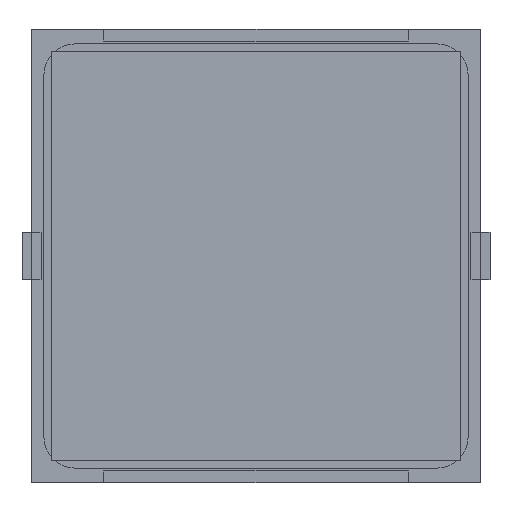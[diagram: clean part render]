
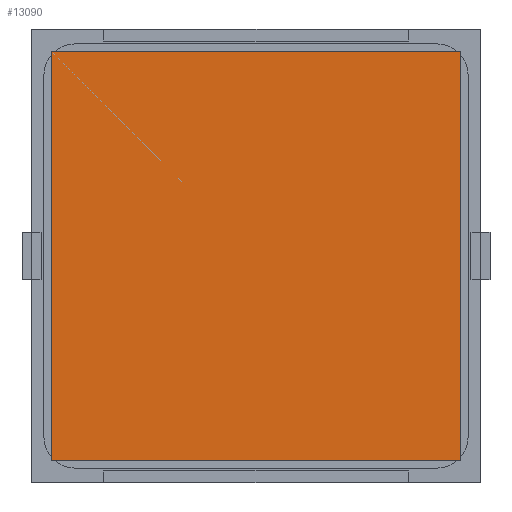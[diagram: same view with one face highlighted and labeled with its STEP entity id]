
A CAD part, front view. The second image highlights one B-rep face of the part: STEP entity #13090.
In plain terms, the highlighted planar face has unit normal (0, -1, 0).
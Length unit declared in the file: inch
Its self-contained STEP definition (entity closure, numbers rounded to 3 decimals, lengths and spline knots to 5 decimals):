
#306 = VERTEX_POINT ( 'NONE', #892 ) ;
#437 = CARTESIAN_POINT ( 'NONE',  ( -0.84646, -0.005, 0.84646 ) ) ;
#505 = CARTESIAN_POINT ( 'NONE',  ( -0.84646, -0.005, 0.84646 ) ) ;
#892 = CARTESIAN_POINT ( 'NONE',  ( -0.84646, -0.005, -0.84646 ) ) ;
#1554 = VECTOR ( 'NONE', #7547, 39.37008 ) ;
#1818 = DIRECTION ( 'NONE',  ( 0., 0., -1. ) ) ;
#2664 = FACE_OUTER_BOUND ( 'NONE', #7488, .T. ) ;
#2734 = PLANE ( 'NONE',  #11641 ) ;
#3004 = EDGE_CURVE ( 'NONE', #12022, #306, #4227, .T. ) ;
#3378 = EDGE_CURVE ( 'NONE', #7980, #10331, #7484, .T. ) ;
#3440 = ORIENTED_EDGE ( 'NONE', *, *, #3378, .F. ) ;
#4165 = CARTESIAN_POINT ( 'NONE',  ( 0.84646, -0.005, -0.84646 ) ) ;
#4227 = LINE ( 'NONE', #11370, #12023 ) ;
#4752 = DIRECTION ( 'NONE',  ( 0., 0., 1. ) ) ;
#5049 = ORIENTED_EDGE ( 'NONE', *, *, #8688, .F. ) ;
#6336 = DIRECTION ( 'NONE',  ( -1., 0., 0. ) ) ;
#6910 = ORIENTED_EDGE ( 'NONE', *, *, #3004, .F. ) ;
#6915 = EDGE_CURVE ( 'NONE', #306, #7980, #10886, .T. ) ;
#7484 = LINE ( 'NONE', #505, #1554 ) ;
#7488 = EDGE_LOOP ( 'NONE', ( #9299, #6910, #5049, #3440 ) ) ;
#7547 = DIRECTION ( 'NONE',  ( 1., 0., 0. ) ) ;
#7980 = VERTEX_POINT ( 'NONE', #437 ) ;
#8688 = EDGE_CURVE ( 'NONE', #10331, #12022, #9805, .T. ) ;
#8871 = VECTOR ( 'NONE', #12895, 39.37008 ) ;
#9299 = ORIENTED_EDGE ( 'NONE', *, *, #6915, .F. ) ;
#9667 = CARTESIAN_POINT ( 'NONE',  ( -0.84646, -0.005, -0.84646 ) ) ;
#9805 = LINE ( 'NONE', #12033, #12682 ) ;
#9959 = CARTESIAN_POINT ( 'NONE',  ( 0.84646, -0.005, 0.84646 ) ) ;
#10331 = VERTEX_POINT ( 'NONE', #9959 ) ;
#10886 = LINE ( 'NONE', #9667, #8871 ) ;
#11017 = DIRECTION ( 'NONE',  ( 0., 1., 0. ) ) ;
#11370 = CARTESIAN_POINT ( 'NONE',  ( -0.84646, -0.005, -0.84646 ) ) ;
#11641 = AXIS2_PLACEMENT_3D ( 'NONE', #13008, #11017, #4752 ) ;
#12022 = VERTEX_POINT ( 'NONE', #4165 ) ;
#12023 = VECTOR ( 'NONE', #6336, 39.37008 ) ;
#12033 = CARTESIAN_POINT ( 'NONE',  ( 0.84646, -0.005, -0.84646 ) ) ;
#12682 = VECTOR ( 'NONE', #1818, 39.37008 ) ;
#12895 = DIRECTION ( 'NONE',  ( 0., 0., 1. ) ) ;
#13008 = CARTESIAN_POINT ( 'NONE',  ( -0.84646, -0.005, 0.84646 ) ) ;
#13090 = ADVANCED_FACE ( 'NONE', ( #2664 ), #2734, .F. ) ;
